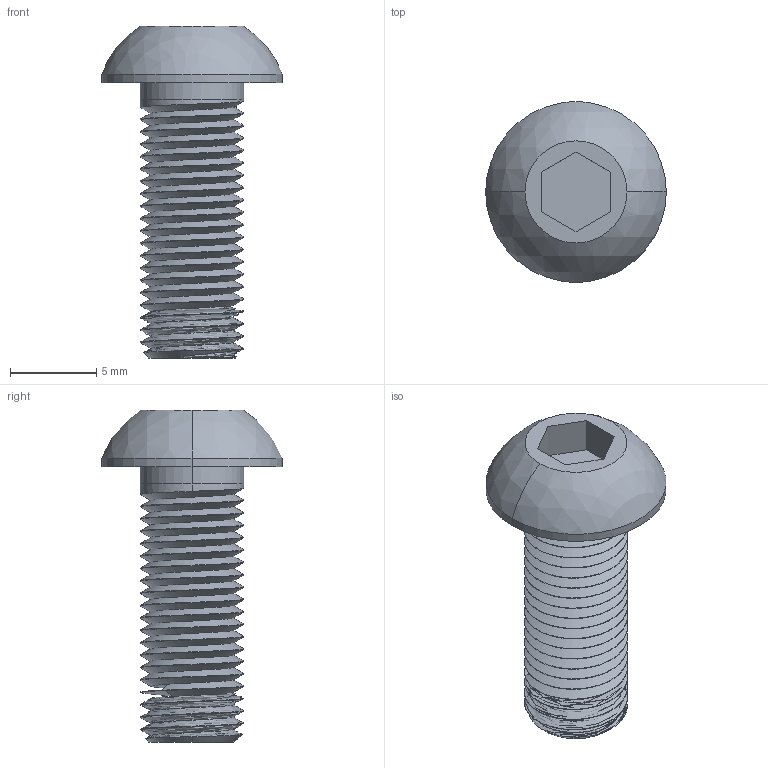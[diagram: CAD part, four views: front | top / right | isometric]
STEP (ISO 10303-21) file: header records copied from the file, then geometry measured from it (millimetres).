
FILE_DESCRIPTION (( 'STEP AP214' ), '1' );
FILE_NAME ('M6x16 Button Cap.STEP', '2015-06-10T10:56:33', ( '' ), ( '' ), 'SwSTEP 2.0', 'SolidWorks 2015', '' );
FILE_SCHEMA (( 'AUTOMOTIVE_DESIGN' ));
Length unit declared in the file: millimetre
Products named in the file (1): M6x16 Button Cap
Bounding box: 10.5 x 10.5 x 19.3 mm (x, y, z)
Volume: 564.7 mm3; surface area: 762.7 mm2
Topology: 1 solids, 1 shells, 64 faces, 174 edges, 114 vertices
Faces by surface type: cylinder 46, plane 11, cone 3, sphere 2, bspline 2
Entity records: 4200 total; most frequent: CARTESIAN_POINT 2339, ORIENTED_EDGE 348, DIRECTION 228, EDGE_CURVE 174, VERTEX_POINT 114, AXIS2_PLACEMENT_3D 80, VECTOR 68, LINE 68
